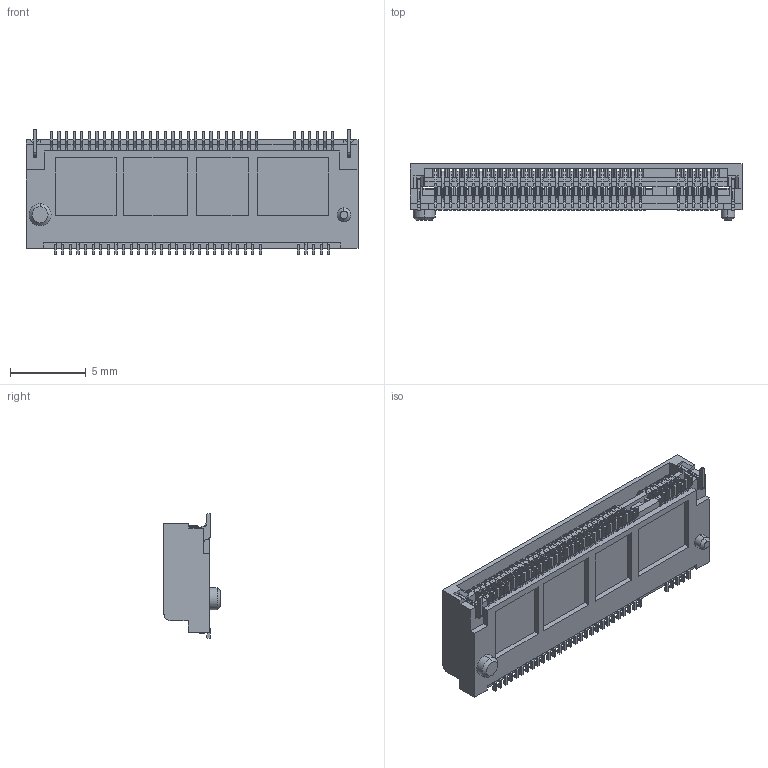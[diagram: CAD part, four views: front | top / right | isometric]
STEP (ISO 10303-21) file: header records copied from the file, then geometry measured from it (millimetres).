
FILE_DESCRIPTION((''),'2;1');
FILE_NAME('S-51750-075XX-002','2022-07-19T',('k99883'),(''),'PRO/ENGINEER BY PARAMETRIC TECHNOLOGY CORPORATION, 2012010','PRO/ENGINEER BY PARAMETRIC TECHNOLOGY CORPORATION, 2012010','');
FILE_SCHEMA(('CONFIG_CONTROL_DESIGN'));
Products named in the file (1): S-51750-075XX-002
Bounding box: 21.85 x 3.7 x 8.2 mm (x, y, z)
Volume: 256.5 mm3; surface area: 1415.3 mm2
Topology: 1 solids, 34 shells, 4090 faces, 12888 edges, 9069 vertices
Faces by surface type: plane 3275, cylinder 807, cone 4, bspline 2, sphere 2
Entity records: 142782 total; most frequent: CARTESIAN_POINT 27158, ORIENTED_EDGE 25212, DIRECTION 22541, EDGE_CURVE 12606, VECTOR 10581, LINE 10581, VERTEX_POINT 8515, AXIS2_PLACEMENT_3D 5980
